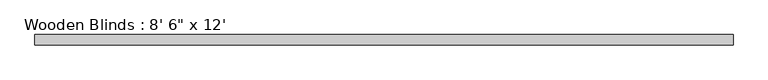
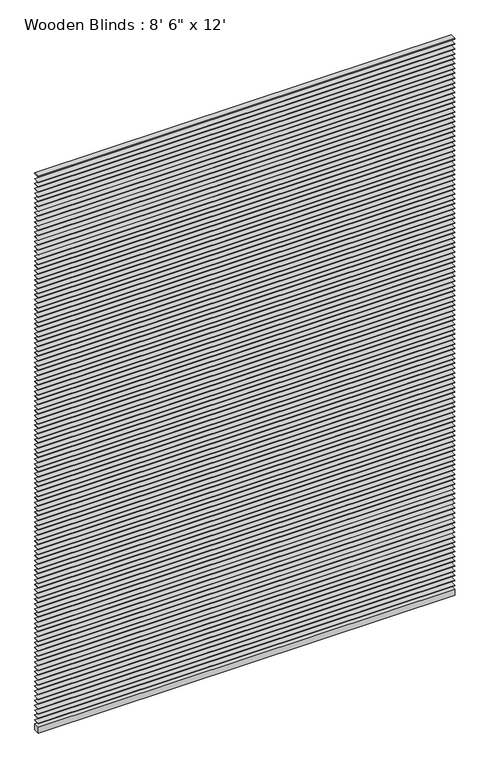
"""IFC4 building model written with IfcOpenShell, lengths in millimetres: furniture geometry."""

from ifc_helpers import new_model, si_unit, frame, origin, origin_with_axes, place, context, project, spatial, polyline, outline, extrude, source, transform, mapped, element, save


def furniture_73d83834(model_context):
    return source(origin(), model_context, "Body", "SweptSolid", [
        extrude(outline(polyline([(2590.8, 38.1), (2590.8, 0.0), (0.0, 0.0), (0.0, 38.1), (2590.8, 38.1)])), frame((0.0, 0.0, 3617.8790576), z_axis=(0.0, 0.0, 1.0), x_axis=(1.0, 0.0, 0.0)), (0.0, 0.0, 1.0), 3.175),
        extrude(outline(polyline([(2590.8, 38.1), (2590.8, 0.0), (0.0, 0.0), (0.0, 38.1), (2590.8, 38.1)])), frame((0.0, 0.0, 3586.1290576), z_axis=(0.0, 0.0, 1.0), x_axis=(1.0, 0.0, 0.0)), (0.0, 0.0, 1.0), 3.175),
        extrude(outline(polyline([(2590.8, 38.1), (2590.8, 0.0), (0.0, 0.0), (0.0, 38.1), (2590.8, 38.1)])), frame((0.0, 0.0, 3554.3790576), z_axis=(0.0, 0.0, 1.0), x_axis=(1.0, 0.0, 0.0)), (0.0, 0.0, 1.0), 3.175),
        extrude(outline(polyline([(2590.8, 38.1), (2590.8, 0.0), (0.0, 0.0), (0.0, 38.1), (2590.8, 38.1)])), frame((0.0, 0.0, 3522.6290576), z_axis=(0.0, 0.0, 1.0), x_axis=(1.0, 0.0, 0.0)), (0.0, 0.0, 1.0), 3.175),
        extrude(outline(polyline([(2590.8, 38.1), (2590.8, 0.0), (0.0, 0.0), (0.0, 38.1), (2590.8, 38.1)])), frame((0.0, 0.0, 3490.8790576), z_axis=(0.0, 0.0, 1.0), x_axis=(1.0, 0.0, 0.0)), (0.0, 0.0, 1.0), 3.175),
        extrude(outline(polyline([(2590.8, 38.1), (2590.8, 0.0), (0.0, 0.0), (0.0, 38.1), (2590.8, 38.1)])), frame((0.0, 0.0, 3459.1290576), z_axis=(0.0, 0.0, 1.0), x_axis=(1.0, 0.0, 0.0)), (0.0, 0.0, 1.0), 3.175),
        extrude(outline(polyline([(2590.8, 38.1), (2590.8, 0.0), (0.0, 0.0), (0.0, 38.1), (2590.8, 38.1)])), frame((0.0, 0.0, 3427.3790576), z_axis=(0.0, 0.0, 1.0), x_axis=(1.0, 0.0, 0.0)), (0.0, 0.0, 1.0), 3.175),
        extrude(outline(polyline([(2590.8, 38.1), (2590.8, 0.0), (0.0, 0.0), (0.0, 38.1), (2590.8, 38.1)])), frame((0.0, 0.0, 3395.6290576), z_axis=(0.0, 0.0, 1.0), x_axis=(1.0, 0.0, 0.0)), (0.0, 0.0, 1.0), 3.175),
        extrude(outline(polyline([(2590.8, 38.1), (2590.8, 0.0), (0.0, 0.0), (0.0, 38.1), (2590.8, 38.1)])), frame((0.0, 0.0, 3363.8790576), z_axis=(0.0, 0.0, 1.0), x_axis=(1.0, 0.0, 0.0)), (0.0, 0.0, 1.0), 3.175),
        extrude(outline(polyline([(2590.8, 38.1), (2590.8, 0.0), (0.0, 0.0), (0.0, 38.1), (2590.8, 38.1)])), frame((0.0, 0.0, 3332.1290576), z_axis=(0.0, 0.0, 1.0), x_axis=(1.0, 0.0, 0.0)), (0.0, 0.0, 1.0), 3.175),
        extrude(outline(polyline([(2590.8, 38.1), (2590.8, 0.0), (0.0, 0.0), (0.0, 38.1), (2590.8, 38.1)])), frame((0.0, 0.0, 3300.3790576), z_axis=(0.0, 0.0, 1.0), x_axis=(1.0, 0.0, 0.0)), (0.0, 0.0, 1.0), 3.175),
        extrude(outline(polyline([(2590.8, 38.1), (2590.8, 0.0), (0.0, 0.0), (0.0, 38.1), (2590.8, 38.1)])), frame((0.0, 0.0, 3268.6290576), z_axis=(0.0, 0.0, 1.0), x_axis=(1.0, 0.0, 0.0)), (0.0, 0.0, 1.0), 3.175),
        extrude(outline(polyline([(2590.8, 38.1), (2590.8, 0.0), (0.0, 0.0), (0.0, 38.1), (2590.8, 38.1)])), frame((0.0, 0.0, 3236.8790576), z_axis=(0.0, 0.0, 1.0), x_axis=(1.0, 0.0, 0.0)), (0.0, 0.0, 1.0), 3.175),
        extrude(outline(polyline([(2590.8, 38.1), (2590.8, 0.0), (0.0, 0.0), (0.0, 38.1), (2590.8, 38.1)])), frame((0.0, 0.0, 3205.1290576), z_axis=(0.0, 0.0, 1.0), x_axis=(1.0, 0.0, 0.0)), (0.0, 0.0, 1.0), 3.175),
        extrude(outline(polyline([(2590.8, 38.1), (2590.8, 0.0), (0.0, 0.0), (0.0, 38.1), (2590.8, 38.1)])), frame((0.0, 0.0, 3173.3790576), z_axis=(0.0, 0.0, 1.0), x_axis=(1.0, 0.0, 0.0)), (0.0, 0.0, 1.0), 3.175),
        extrude(outline(polyline([(2590.8, 38.1), (2590.8, 0.0), (0.0, 0.0), (0.0, 38.1), (2590.8, 38.1)])), frame((0.0, 0.0, 3141.6290576), z_axis=(0.0, 0.0, 1.0), x_axis=(1.0, 0.0, 0.0)), (0.0, 0.0, 1.0), 3.175),
        extrude(outline(polyline([(2590.8, 38.1), (2590.8, 0.0), (0.0, 0.0), (0.0, 38.1), (2590.8, 38.1)])), frame((0.0, 0.0, 3109.8790576), z_axis=(0.0, 0.0, 1.0), x_axis=(1.0, 0.0, 0.0)), (0.0, 0.0, 1.0), 3.175),
        extrude(outline(polyline([(2590.8, 38.1), (2590.8, 0.0), (0.0, 0.0), (0.0, 38.1), (2590.8, 38.1)])), frame((0.0, 0.0, 3078.1290576), z_axis=(0.0, 0.0, 1.0), x_axis=(1.0, 0.0, 0.0)), (0.0, 0.0, 1.0), 3.175),
        extrude(outline(polyline([(2590.8, 38.1), (2590.8, 0.0), (0.0, 0.0), (0.0, 38.1), (2590.8, 38.1)])), frame((0.0, 0.0, 3046.3790576), z_axis=(0.0, 0.0, 1.0), x_axis=(1.0, 0.0, 0.0)), (0.0, 0.0, 1.0), 3.175),
        extrude(outline(polyline([(2590.8, 38.1), (2590.8, 0.0), (0.0, 0.0), (0.0, 38.1), (2590.8, 38.1)])), frame((0.0, 0.0, 3014.6290576), z_axis=(0.0, 0.0, 1.0), x_axis=(1.0, 0.0, 0.0)), (0.0, 0.0, 1.0), 3.175),
        extrude(outline(polyline([(2590.8, 38.1), (2590.8, 0.0), (0.0, 0.0), (0.0, 38.1), (2590.8, 38.1)])), frame((0.0, 0.0, 2982.8790576), z_axis=(0.0, 0.0, 1.0), x_axis=(1.0, 0.0, 0.0)), (0.0, 0.0, 1.0), 3.175),
        extrude(outline(polyline([(2590.8, 38.1), (2590.8, 0.0), (0.0, 0.0), (0.0, 38.1), (2590.8, 38.1)])), frame((0.0, 0.0, 2951.1290576), z_axis=(0.0, 0.0, 1.0), x_axis=(1.0, 0.0, 0.0)), (0.0, 0.0, 1.0), 3.175),
        extrude(outline(polyline([(2590.8, 38.1), (2590.8, 0.0), (0.0, 0.0), (0.0, 38.1), (2590.8, 38.1)])), frame((0.0, 0.0, 2919.3790576), z_axis=(0.0, 0.0, 1.0), x_axis=(1.0, 0.0, 0.0)), (0.0, 0.0, 1.0), 3.175),
        extrude(outline(polyline([(2590.8, 38.1), (2590.8, 0.0), (0.0, 0.0), (0.0, 38.1), (2590.8, 38.1)])), frame((0.0, 0.0, 2887.6290576), z_axis=(0.0, 0.0, 1.0), x_axis=(1.0, 0.0, 0.0)), (0.0, 0.0, 1.0), 3.175),
        extrude(outline(polyline([(2590.8, 38.1), (2590.8, 0.0), (0.0, 0.0), (0.0, 38.1), (2590.8, 38.1)])), frame((0.0, 0.0, 2855.8790576), z_axis=(0.0, 0.0, 1.0), x_axis=(1.0, 0.0, 0.0)), (0.0, 0.0, 1.0), 3.175),
        extrude(outline(polyline([(2590.8, 38.1), (2590.8, 0.0), (0.0, 0.0), (0.0, 38.1), (2590.8, 38.1)])), frame((0.0, 0.0, 2824.1290576), z_axis=(0.0, 0.0, 1.0), x_axis=(1.0, 0.0, 0.0)), (0.0, 0.0, 1.0), 3.175),
        extrude(outline(polyline([(2590.8, 38.1), (2590.8, 0.0), (0.0, 0.0), (0.0, 38.1), (2590.8, 38.1)])), frame((0.0, 0.0, 2792.3790576), z_axis=(0.0, 0.0, 1.0), x_axis=(1.0, 0.0, 0.0)), (0.0, 0.0, 1.0), 3.175),
        extrude(outline(polyline([(2590.8, 38.1), (2590.8, 0.0), (0.0, 0.0), (0.0, 38.1), (2590.8, 38.1)])), frame((0.0, 0.0, 2760.6290576), z_axis=(0.0, 0.0, 1.0), x_axis=(1.0, 0.0, 0.0)), (0.0, 0.0, 1.0), 3.175),
        extrude(outline(polyline([(2590.8, 38.1), (2590.8, 0.0), (0.0, 0.0), (0.0, 38.1), (2590.8, 38.1)])), frame((0.0, 0.0, 2728.8790576), z_axis=(0.0, 0.0, 1.0), x_axis=(1.0, 0.0, 0.0)), (0.0, 0.0, 1.0), 3.175),
        extrude(outline(polyline([(2590.8, 38.1), (2590.8, 0.0), (0.0, 0.0), (0.0, 38.1), (2590.8, 38.1)])), frame((0.0, 0.0, 2697.1290576), z_axis=(0.0, 0.0, 1.0), x_axis=(1.0, 0.0, 0.0)), (0.0, 0.0, 1.0), 3.175),
        extrude(outline(polyline([(2590.8, 38.1), (2590.8, 0.0), (0.0, 0.0), (0.0, 38.1), (2590.8, 38.1)])), frame((0.0, 0.0, 2665.3790576), z_axis=(0.0, 0.0, 1.0), x_axis=(1.0, 0.0, 0.0)), (0.0, 0.0, 1.0), 3.175),
        extrude(outline(polyline([(2590.8, 38.1), (2590.8, 0.0), (0.0, 0.0), (0.0, 38.1), (2590.8, 38.1)])), frame((0.0, 0.0, 2633.6290576), z_axis=(0.0, 0.0, 1.0), x_axis=(1.0, 0.0, 0.0)), (0.0, 0.0, 1.0), 3.175),
        extrude(outline(polyline([(2590.8, 38.1), (2590.8, 0.0), (0.0, 0.0), (0.0, 38.1), (2590.8, 38.1)])), frame((0.0, 0.0, 2601.8790576), z_axis=(0.0, 0.0, 1.0), x_axis=(1.0, 0.0, 0.0)), (0.0, 0.0, 1.0), 3.175),
        extrude(outline(polyline([(2590.8, 38.1), (2590.8, 0.0), (0.0, 0.0), (0.0, 38.1), (2590.8, 38.1)])), frame((0.0, 0.0, 2570.1290576), z_axis=(0.0, 0.0, 1.0), x_axis=(1.0, 0.0, 0.0)), (0.0, 0.0, 1.0), 3.175),
        extrude(outline(polyline([(2590.8, 38.1), (2590.8, 0.0), (0.0, 0.0), (0.0, 38.1), (2590.8, 38.1)])), frame((0.0, 0.0, 2538.3790576), z_axis=(0.0, 0.0, 1.0), x_axis=(1.0, 0.0, 0.0)), (0.0, 0.0, 1.0), 3.175),
        extrude(outline(polyline([(2590.8, 38.1), (2590.8, 0.0), (0.0, 0.0), (0.0, 38.1), (2590.8, 38.1)])), frame((0.0, 0.0, 2506.6290576), z_axis=(0.0, 0.0, 1.0), x_axis=(1.0, 0.0, 0.0)), (0.0, 0.0, 1.0), 3.175),
        extrude(outline(polyline([(2590.8, 38.1), (2590.8, 0.0), (0.0, 0.0), (0.0, 38.1), (2590.8, 38.1)])), frame((0.0, 0.0, 2474.8790576), z_axis=(0.0, 0.0, 1.0), x_axis=(1.0, 0.0, 0.0)), (0.0, 0.0, 1.0), 3.175),
        extrude(outline(polyline([(2590.8, 38.1), (2590.8, 0.0), (0.0, 0.0), (0.0, 38.1), (2590.8, 38.1)])), frame((0.0, 0.0, 2443.1290576), z_axis=(0.0, 0.0, 1.0), x_axis=(1.0, 0.0, 0.0)), (0.0, 0.0, 1.0), 3.175),
        extrude(outline(polyline([(2590.8, 38.1), (2590.8, 0.0), (0.0, 0.0), (0.0, 38.1), (2590.8, 38.1)])), frame((0.0, 0.0, 2411.3790576), z_axis=(0.0, 0.0, 1.0), x_axis=(1.0, 0.0, 0.0)), (0.0, 0.0, 1.0), 3.175),
        extrude(outline(polyline([(2590.8, 38.1), (2590.8, 0.0), (0.0, 0.0), (0.0, 38.1), (2590.8, 38.1)])), frame((0.0, 0.0, 2379.6290576), z_axis=(0.0, 0.0, 1.0), x_axis=(1.0, 0.0, 0.0)), (0.0, 0.0, 1.0), 3.175),
        extrude(outline(polyline([(2590.8, 38.1), (2590.8, 0.0), (0.0, 0.0), (0.0, 38.1), (2590.8, 38.1)])), frame((0.0, 0.0, 2347.8790576), z_axis=(0.0, 0.0, 1.0), x_axis=(1.0, 0.0, 0.0)), (0.0, 0.0, 1.0), 3.175),
        extrude(outline(polyline([(2590.8, 38.1), (2590.8, 0.0), (0.0, 0.0), (0.0, 38.1), (2590.8, 38.1)])), frame((0.0, 0.0, 2316.1290576), z_axis=(0.0, 0.0, 1.0), x_axis=(1.0, 0.0, 0.0)), (0.0, 0.0, 1.0), 3.175),
        extrude(outline(polyline([(2590.8, 38.1), (2590.8, 0.0), (0.0, 0.0), (0.0, 38.1), (2590.8, 38.1)])), frame((0.0, 0.0, 2284.3790576), z_axis=(0.0, 0.0, 1.0), x_axis=(1.0, 0.0, 0.0)), (0.0, 0.0, 1.0), 3.175),
        extrude(outline(polyline([(2590.8, 38.1), (2590.8, 0.0), (0.0, 0.0), (0.0, 38.1), (2590.8, 38.1)])), frame((0.0, 0.0, 2252.6290576), z_axis=(0.0, 0.0, 1.0), x_axis=(1.0, 0.0, 0.0)), (0.0, 0.0, 1.0), 3.175),
        extrude(outline(polyline([(2590.8, 38.1), (2590.8, 0.0), (0.0, 0.0), (0.0, 38.1), (2590.8, 38.1)])), frame((0.0, 0.0, 2220.8790576), z_axis=(0.0, 0.0, 1.0), x_axis=(1.0, 0.0, 0.0)), (0.0, 0.0, 1.0), 3.175),
        extrude(outline(polyline([(2590.8, 38.1), (2590.8, 0.0), (0.0, 0.0), (0.0, 38.1), (2590.8, 38.1)])), frame((0.0, 0.0, 2189.1290576), z_axis=(0.0, 0.0, 1.0), x_axis=(1.0, 0.0, 0.0)), (0.0, 0.0, 1.0), 3.175),
        extrude(outline(polyline([(2590.8, 38.1), (2590.8, 0.0), (0.0, 0.0), (0.0, 38.1), (2590.8, 38.1)])), frame((0.0, 0.0, 2157.3790576), z_axis=(0.0, 0.0, 1.0), x_axis=(1.0, 0.0, 0.0)), (0.0, 0.0, 1.0), 3.175),
        extrude(outline(polyline([(2590.8, 38.1), (2590.8, 0.0), (0.0, 0.0), (0.0, 38.1), (2590.8, 38.1)])), frame((0.0, 0.0, 2125.6290576), z_axis=(0.0, 0.0, 1.0), x_axis=(1.0, 0.0, 0.0)), (0.0, 0.0, 1.0), 3.175),
        extrude(outline(polyline([(2590.8, 38.1), (2590.8, 0.0), (0.0, 0.0), (0.0, 38.1), (2590.8, 38.1)])), frame((0.0, 0.0, 2093.8790576), z_axis=(0.0, 0.0, 1.0), x_axis=(1.0, 0.0, 0.0)), (0.0, 0.0, 1.0), 3.175),
        extrude(outline(polyline([(2590.8, 38.1), (2590.8, 0.0), (0.0, 0.0), (0.0, 38.1), (2590.8, 38.1)])), frame((0.0, 0.0, 2062.1290576), z_axis=(0.0, 0.0, 1.0), x_axis=(1.0, 0.0, 0.0)), (0.0, 0.0, 1.0), 3.175),
        extrude(outline(polyline([(2590.8, 38.1), (2590.8, 0.0), (0.0, 0.0), (0.0, 38.1), (2590.8, 38.1)])), frame((0.0, 0.0, 2030.3790576), z_axis=(0.0, 0.0, 1.0), x_axis=(1.0, 0.0, 0.0)), (0.0, 0.0, 1.0), 3.175),
        extrude(outline(polyline([(2590.8, 38.1), (2590.8, 0.0), (0.0, 0.0), (0.0, 38.1), (2590.8, 38.1)])), frame((0.0, 0.0, 1998.6290576), z_axis=(0.0, 0.0, 1.0), x_axis=(1.0, 0.0, 0.0)), (0.0, 0.0, 1.0), 3.175),
        extrude(outline(polyline([(2590.8, 38.1), (2590.8, 0.0), (0.0, 0.0), (0.0, 38.1), (2590.8, 38.1)])), frame((0.0, 0.0, 1966.8790576), z_axis=(0.0, 0.0, 1.0), x_axis=(1.0, 0.0, 0.0)), (0.0, 0.0, 1.0), 3.175),
        extrude(outline(polyline([(2590.8, 38.1), (2590.8, 0.0), (0.0, 0.0), (0.0, 38.1), (2590.8, 38.1)])), frame((0.0, 0.0, 1935.1290576), z_axis=(0.0, 0.0, 1.0), x_axis=(1.0, 0.0, 0.0)), (0.0, 0.0, 1.0), 3.175),
        extrude(outline(polyline([(2590.8, 38.1), (2590.8, 0.0), (0.0, 0.0), (0.0, 38.1), (2590.8, 38.1)])), frame((0.0, 0.0, 1903.3790576), z_axis=(0.0, 0.0, 1.0), x_axis=(1.0, 0.0, 0.0)), (0.0, 0.0, 1.0), 3.175),
        extrude(outline(polyline([(2590.8, 38.1), (2590.8, 0.0), (0.0, 0.0), (0.0, 38.1), (2590.8, 38.1)])), frame((0.0, 0.0, 1871.6290576), z_axis=(0.0, 0.0, 1.0), x_axis=(1.0, 0.0, 0.0)), (0.0, 0.0, 1.0), 3.175),
        extrude(outline(polyline([(2590.8, 38.1), (2590.8, 0.0), (0.0, 0.0), (0.0, 38.1), (2590.8, 38.1)])), frame((0.0, 0.0, 1839.8790576), z_axis=(0.0, 0.0, 1.0), x_axis=(1.0, 0.0, 0.0)), (0.0, 0.0, 1.0), 3.175),
        extrude(outline(polyline([(2590.8, 38.1), (2590.8, 0.0), (0.0, 0.0), (0.0, 38.1), (2590.8, 38.1)])), frame((0.0, 0.0, 1808.1290576), z_axis=(0.0, 0.0, 1.0), x_axis=(1.0, 0.0, 0.0)), (0.0, 0.0, 1.0), 3.175),
        extrude(outline(polyline([(2590.8, 38.1), (2590.8, 0.0), (0.0, 0.0), (0.0, 38.1), (2590.8, 38.1)])), frame((0.0, 0.0, 1776.3790576), z_axis=(0.0, 0.0, 1.0), x_axis=(1.0, 0.0, 0.0)), (0.0, 0.0, 1.0), 3.175),
        extrude(outline(polyline([(2590.8, 38.1), (2590.8, 0.0), (0.0, 0.0), (0.0, 38.1), (2590.8, 38.1)])), frame((0.0, 0.0, 1744.6290576), z_axis=(0.0, 0.0, 1.0), x_axis=(1.0, 0.0, 0.0)), (0.0, 0.0, 1.0), 3.175),
        extrude(outline(polyline([(2590.8, 38.1), (2590.8, 0.0), (0.0, 0.0), (0.0, 38.1), (2590.8, 38.1)])), frame((0.0, 0.0, 1712.8790576), z_axis=(0.0, 0.0, 1.0), x_axis=(1.0, 0.0, 0.0)), (0.0, 0.0, 1.0), 3.175),
        extrude(outline(polyline([(2590.8, 38.1), (2590.8, 0.0), (0.0, 0.0), (0.0, 38.1), (2590.8, 38.1)])), frame((0.0, 0.0, 1681.1290576), z_axis=(0.0, 0.0, 1.0), x_axis=(1.0, 0.0, 0.0)), (0.0, 0.0, 1.0), 3.175),
        extrude(outline(polyline([(2590.8, 38.1), (2590.8, 0.0), (0.0, 0.0), (0.0, 38.1), (2590.8, 38.1)])), frame((0.0, 0.0, 1649.3790576), z_axis=(0.0, 0.0, 1.0), x_axis=(1.0, 0.0, 0.0)), (0.0, 0.0, 1.0), 3.175),
        extrude(outline(polyline([(2590.8, 38.1), (2590.8, 0.0), (0.0, 0.0), (0.0, 38.1), (2590.8, 38.1)])), frame((0.0, 0.0, 1617.6290576), z_axis=(0.0, 0.0, 1.0), x_axis=(1.0, 0.0, 0.0)), (0.0, 0.0, 1.0), 3.175),
        extrude(outline(polyline([(2590.8, 38.1), (2590.8, 0.0), (0.0, 0.0), (0.0, 38.1), (2590.8, 38.1)])), frame((0.0, 0.0, 1585.8790576), z_axis=(0.0, 0.0, 1.0), x_axis=(1.0, 0.0, 0.0)), (0.0, 0.0, 1.0), 3.175),
        extrude(outline(polyline([(2590.8, 38.1), (2590.8, 0.0), (0.0, 0.0), (0.0, 38.1), (2590.8, 38.1)])), frame((0.0, 0.0, 1554.1290576), z_axis=(0.0, 0.0, 1.0), x_axis=(1.0, 0.0, 0.0)), (0.0, 0.0, 1.0), 3.175),
        extrude(outline(polyline([(2590.8, 38.1), (2590.8, 0.0), (0.0, 0.0), (0.0, 38.1), (2590.8, 38.1)])), frame((0.0, 0.0, 1522.3790576), z_axis=(0.0, 0.0, 1.0), x_axis=(1.0, 0.0, 0.0)), (0.0, 0.0, 1.0), 3.175),
        extrude(outline(polyline([(2590.8, 38.1), (2590.8, 0.0), (0.0, 0.0), (0.0, 38.1), (2590.8, 38.1)])), frame((0.0, 0.0, 1490.6290576), z_axis=(0.0, 0.0, 1.0), x_axis=(1.0, 0.0, 0.0)), (0.0, 0.0, 1.0), 3.175),
        extrude(outline(polyline([(2590.8, 38.1), (2590.8, 0.0), (0.0, 0.0), (0.0, 38.1), (2590.8, 38.1)])), frame((0.0, 0.0, 1458.8790576), z_axis=(0.0, 0.0, 1.0), x_axis=(1.0, 0.0, 0.0)), (0.0, 0.0, 1.0), 3.175),
        extrude(outline(polyline([(2590.8, 38.1), (2590.8, 0.0), (0.0, 0.0), (0.0, 38.1), (2590.8, 38.1)])), frame((0.0, 0.0, 1427.1290576), z_axis=(0.0, 0.0, 1.0), x_axis=(1.0, 0.0, 0.0)), (0.0, 0.0, 1.0), 3.175),
        extrude(outline(polyline([(2590.8, 38.1), (2590.8, 0.0), (0.0, 0.0), (0.0, 38.1), (2590.8, 38.1)])), frame((0.0, 0.0, 1395.3790576), z_axis=(0.0, 0.0, 1.0), x_axis=(1.0, 0.0, 0.0)), (0.0, 0.0, 1.0), 3.175),
        extrude(outline(polyline([(2590.8, 38.1), (2590.8, 0.0), (0.0, 0.0), (0.0, 38.1), (2590.8, 38.1)])), frame((0.0, 0.0, 1363.6290576), z_axis=(0.0, 0.0, 1.0), x_axis=(1.0, 0.0, 0.0)), (0.0, 0.0, 1.0), 3.175),
        extrude(outline(polyline([(2590.8, 38.1), (2590.8, 0.0), (0.0, 0.0), (0.0, 38.1), (2590.8, 38.1)])), frame((0.0, 0.0, 1331.8790576), z_axis=(0.0, 0.0, 1.0), x_axis=(1.0, 0.0, 0.0)), (0.0, 0.0, 1.0), 3.175),
        extrude(outline(polyline([(2590.8, 38.1), (2590.8, 0.0), (0.0, 0.0), (0.0, 38.1), (2590.8, 38.1)])), frame((0.0, 0.0, 1300.1290576), z_axis=(0.0, 0.0, 1.0), x_axis=(1.0, 0.0, 0.0)), (0.0, 0.0, 1.0), 3.175),
        extrude(outline(polyline([(2590.8, 38.1), (2590.8, 0.0), (0.0, 0.0), (0.0, 38.1), (2590.8, 38.1)])), frame((0.0, 0.0, 1268.3790576), z_axis=(0.0, 0.0, 1.0), x_axis=(1.0, 0.0, 0.0)), (0.0, 0.0, 1.0), 3.175),
        extrude(outline(polyline([(2590.8, 38.1), (2590.8, 0.0), (0.0, 0.0), (0.0, 38.1), (2590.8, 38.1)])), frame((0.0, 0.0, 1236.6290576), z_axis=(0.0, 0.0, 1.0), x_axis=(1.0, 0.0, 0.0)), (0.0, 0.0, 1.0), 3.175),
        extrude(outline(polyline([(2590.8, 38.1), (2590.8, 0.0), (0.0, 0.0), (0.0, 38.1), (2590.8, 38.1)])), frame((0.0, 0.0, 1204.8790576), z_axis=(0.0, 0.0, 1.0), x_axis=(1.0, 0.0, 0.0)), (0.0, 0.0, 1.0), 3.175),
        extrude(outline(polyline([(2590.8, 38.1), (2590.8, 0.0), (0.0, 0.0), (0.0, 38.1), (2590.8, 38.1)])), frame((0.0, 0.0, 1173.1290576), z_axis=(0.0, 0.0, 1.0), x_axis=(1.0, 0.0, 0.0)), (0.0, 0.0, 1.0), 3.175),
        extrude(outline(polyline([(2590.8, 38.1), (2590.8, 0.0), (0.0, 0.0), (0.0, 38.1), (2590.8, 38.1)])), frame((0.0, 0.0, 1141.3790576), z_axis=(0.0, 0.0, 1.0), x_axis=(1.0, 0.0, 0.0)), (0.0, 0.0, 1.0), 3.175),
        extrude(outline(polyline([(2590.8, 38.1), (2590.8, 0.0), (0.0, 0.0), (0.0, 38.1), (2590.8, 38.1)])), frame((0.0, 0.0, 1109.6290576), z_axis=(0.0, 0.0, 1.0), x_axis=(1.0, 0.0, 0.0)), (0.0, 0.0, 1.0), 3.175),
        extrude(outline(polyline([(2590.8, 38.1), (2590.8, 0.0), (0.0, 0.0), (0.0, 38.1), (2590.8, 38.1)])), frame((0.0, 0.0, 1077.8790576), z_axis=(0.0, 0.0, 1.0), x_axis=(1.0, 0.0, 0.0)), (0.0, 0.0, 1.0), 3.175),
        extrude(outline(polyline([(2590.8, 38.1), (2590.8, 0.0), (0.0, 0.0), (0.0, 38.1), (2590.8, 38.1)])), frame((0.0, 0.0, 1046.1290576), z_axis=(0.0, 0.0, 1.0), x_axis=(1.0, 0.0, 0.0)), (0.0, 0.0, 1.0), 3.175),
        extrude(outline(polyline([(2590.8, 38.1), (2590.8, 0.0), (0.0, 0.0), (0.0, 38.1), (2590.8, 38.1)])), frame((0.0, 0.0, 1014.3790576), z_axis=(0.0, 0.0, 1.0), x_axis=(1.0, 0.0, 0.0)), (0.0, 0.0, 1.0), 3.175),
        extrude(outline(polyline([(2590.8, 38.1), (2590.8, 0.0), (0.0, 0.0), (0.0, 38.1), (2590.8, 38.1)])), frame((0.0, 0.0, 982.6290576), z_axis=(0.0, 0.0, 1.0), x_axis=(1.0, 0.0, 0.0)), (0.0, 0.0, 1.0), 3.175),
        extrude(outline(polyline([(2590.8, 38.1), (2590.8, 0.0), (0.0, 0.0), (0.0, 38.1), (2590.8, 38.1)])), frame((0.0, 0.0, 950.8790576), z_axis=(0.0, 0.0, 1.0), x_axis=(1.0, 0.0, 0.0)), (0.0, 0.0, 1.0), 3.175),
        extrude(outline(polyline([(2590.8, 38.1), (2590.8, 0.0), (0.0, 0.0), (0.0, 38.1), (2590.8, 38.1)])), frame((0.0, 0.0, 919.1290576), z_axis=(0.0, 0.0, 1.0), x_axis=(1.0, 0.0, 0.0)), (0.0, 0.0, 1.0), 3.175),
        extrude(outline(polyline([(2590.8, 38.1), (2590.8, 0.0), (0.0, 0.0), (0.0, 38.1), (2590.8, 38.1)])), frame((0.0, 0.0, 887.3790576), z_axis=(0.0, 0.0, 1.0), x_axis=(1.0, 0.0, 0.0)), (0.0, 0.0, 1.0), 3.175),
        extrude(outline(polyline([(2590.8, 38.1), (2590.8, 0.0), (0.0, 0.0), (0.0, 38.1), (2590.8, 38.1)])), frame((0.0, 0.0, 855.6290576), z_axis=(0.0, 0.0, 1.0), x_axis=(1.0, 0.0, 0.0)), (0.0, 0.0, 1.0), 3.175),
        extrude(outline(polyline([(2590.8, 38.1), (2590.8, 0.0), (0.0, 0.0), (0.0, 38.1), (2590.8, 38.1)])), frame((0.0, 0.0, 823.8790576), z_axis=(0.0, 0.0, 1.0), x_axis=(1.0, 0.0, 0.0)), (0.0, 0.0, 1.0), 3.175),
        extrude(outline(polyline([(2590.8, 38.1), (2590.8, 0.0), (0.0, 0.0), (0.0, 38.1), (2590.8, 38.1)])), frame((0.0, 0.0, 792.1290576), z_axis=(0.0, 0.0, 1.0), x_axis=(1.0, 0.0, 0.0)), (0.0, 0.0, 1.0), 3.175),
        extrude(outline(polyline([(2590.8, 38.1), (2590.8, 0.0), (0.0, 0.0), (0.0, 38.1), (2590.8, 38.1)])), frame((0.0, 0.0, 760.3790576), z_axis=(0.0, 0.0, 1.0), x_axis=(1.0, 0.0, 0.0)), (0.0, 0.0, 1.0), 3.175),
        extrude(outline(polyline([(2590.8, 38.1), (2590.8, 0.0), (0.0, 0.0), (0.0, 38.1), (2590.8, 38.1)])), frame((0.0, 0.0, 728.6290576), z_axis=(0.0, 0.0, 1.0), x_axis=(1.0, 0.0, 0.0)), (0.0, 0.0, 1.0), 3.175),
        extrude(outline(polyline([(2590.8, 38.1), (2590.8, 0.0), (0.0, 0.0), (0.0, 38.1), (2590.8, 38.1)])), frame((0.0, 0.0, 696.8790576), z_axis=(0.0, 0.0, 1.0), x_axis=(1.0, 0.0, 0.0)), (0.0, 0.0, 1.0), 3.175),
        extrude(outline(polyline([(2590.8, 38.1), (2590.8, 0.0), (0.0, 0.0), (0.0, 38.1), (2590.8, 38.1)])), frame((0.0, 0.0, 665.1290576), z_axis=(0.0, 0.0, 1.0), x_axis=(1.0, 0.0, 0.0)), (0.0, 0.0, 1.0), 3.175),
        extrude(outline(polyline([(2590.8, 38.1), (2590.8, 0.0), (0.0, 0.0), (0.0, 38.1), (2590.8, 38.1)])), frame((0.0, 0.0, 633.3790576), z_axis=(0.0, 0.0, 1.0), x_axis=(1.0, 0.0, 0.0)), (0.0, 0.0, 1.0), 3.175),
        extrude(outline(polyline([(2590.8, 38.1), (2590.8, 0.0), (0.0, 0.0), (0.0, 38.1), (2590.8, 38.1)])), frame((0.0, 0.0, 601.6290576), z_axis=(0.0, 0.0, 1.0), x_axis=(1.0, 0.0, 0.0)), (0.0, 0.0, 1.0), 3.175),
        extrude(outline(polyline([(2590.8, 38.1), (2590.8, 0.0), (0.0, 0.0), (0.0, 38.1), (2590.8, 38.1)])), frame((0.0, 0.0, 569.8790576), z_axis=(0.0, 0.0, 1.0), x_axis=(1.0, 0.0, 0.0)), (0.0, 0.0, 1.0), 3.175),
        extrude(outline(polyline([(2590.8, 38.1), (2590.8, 0.0), (0.0, 0.0), (0.0, 38.1), (2590.8, 38.1)])), frame((0.0, 0.0, 538.1290576), z_axis=(0.0, 0.0, 1.0), x_axis=(1.0, 0.0, 0.0)), (0.0, 0.0, 1.0), 3.175),
        extrude(outline(polyline([(2590.8, 38.1), (2590.8, 0.0), (0.0, 0.0), (0.0, 38.1), (2590.8, 38.1)])), frame((0.0, 0.0, 506.3790576), z_axis=(0.0, 0.0, 1.0), x_axis=(1.0, 0.0, 0.0)), (0.0, 0.0, 1.0), 3.175),
        extrude(outline(polyline([(2590.8, 38.1), (2590.8, 0.0), (0.0, 0.0), (0.0, 38.1), (2590.8, 38.1)])), frame((0.0, 0.0, 474.6290576), z_axis=(0.0, 0.0, 1.0), x_axis=(1.0, 0.0, 0.0)), (0.0, 0.0, 1.0), 3.175),
        extrude(outline(polyline([(2590.8, 38.1), (2590.8, 0.0), (0.0, 0.0), (0.0, 38.1), (2590.8, 38.1)])), frame((0.0, 0.0, 442.8790576), z_axis=(0.0, 0.0, 1.0), x_axis=(1.0, 0.0, 0.0)), (0.0, 0.0, 1.0), 3.175),
        extrude(outline(polyline([(2590.8, 38.1), (2590.8, 0.0), (0.0, 0.0), (0.0, 38.1), (2590.8, 38.1)])), frame((0.0, 0.0, 411.1290576), z_axis=(0.0, 0.0, 1.0), x_axis=(1.0, 0.0, 0.0)), (0.0, 0.0, 1.0), 3.175),
        extrude(outline(polyline([(2590.8, 38.1), (2590.8, 0.0), (0.0, 0.0), (0.0, 38.1), (2590.8, 38.1)])), frame((0.0, 0.0, 379.3790576), z_axis=(0.0, 0.0, 1.0), x_axis=(1.0, 0.0, 0.0)), (0.0, 0.0, 1.0), 3.175),
        extrude(outline(polyline([(2590.8, 38.1), (2590.8, 0.0), (0.0, 0.0), (0.0, 38.1), (2590.8, 38.1)])), frame((0.0, 0.0, 347.6290576), z_axis=(0.0, 0.0, 1.0), x_axis=(1.0, 0.0, 0.0)), (0.0, 0.0, 1.0), 3.175),
        extrude(outline(polyline([(2590.8, 38.1), (2590.8, 0.0), (0.0, 0.0), (0.0, 38.1), (2590.8, 38.1)])), frame((0.0, 0.0, 315.8790576), z_axis=(0.0, 0.0, 1.0), x_axis=(1.0, 0.0, 0.0)), (0.0, 0.0, 1.0), 3.175),
        extrude(outline(polyline([(2590.8, 38.1), (2590.8, 0.0), (0.0, 0.0), (0.0, 38.1), (2590.8, 38.1)])), frame((0.0, 0.0, 284.1290576), z_axis=(0.0, 0.0, 1.0), x_axis=(1.0, 0.0, 0.0)), (0.0, 0.0, 1.0), 3.175),
        extrude(outline(polyline([(2590.8, 38.1), (2590.8, 0.0), (0.0, 0.0), (0.0, 38.1), (2590.8, 38.1)])), frame((0.0, 0.0, 252.3790576), z_axis=(0.0, 0.0, 1.0), x_axis=(1.0, 0.0, 0.0)), (0.0, 0.0, 1.0), 3.175),
        extrude(outline(polyline([(2590.8, 38.1), (2590.8, 0.0), (0.0, 0.0), (0.0, 38.1), (2590.8, 38.1)])), frame((0.0, 0.0, 220.6290576), z_axis=(0.0, 0.0, 1.0), x_axis=(1.0, 0.0, 0.0)), (0.0, 0.0, 1.0), 3.175),
        extrude(outline(polyline([(2590.8, 38.1), (2590.8, 0.0), (0.0, 0.0), (0.0, 38.1), (2590.8, 38.1)])), frame((0.0, 0.0, 188.8790576), z_axis=(0.0, 0.0, 1.0), x_axis=(1.0, 0.0, 0.0)), (0.0, 0.0, 1.0), 3.175),
        extrude(outline(polyline([(2590.8, 38.1), (2590.8, 0.0), (0.0, 0.0), (0.0, 38.1), (2590.8, 38.1)])), frame((0.0, 0.0, 157.1290576), z_axis=(0.0, 0.0, 1.0), x_axis=(1.0, 0.0, 0.0)), (0.0, 0.0, 1.0), 3.175),
        extrude(outline(polyline([(2590.8, 38.1), (2590.8, 0.0), (0.0, 0.0), (0.0, 38.1), (2590.8, 38.1)])), frame((0.0, 0.0, 125.3790576), z_axis=(0.0, 0.0, 1.0), x_axis=(1.0, 0.0, 0.0)), (0.0, 0.0, 1.0), 3.175),
        extrude(outline(polyline([(2590.8, 38.1), (2590.8, 0.0), (0.0, 0.0), (0.0, 38.1), (2590.8, 38.1)])), frame((0.0, 0.0, 93.6290576), z_axis=(0.0, 0.0, 1.0), x_axis=(1.0, 0.0, 0.0)), (0.0, 0.0, 1.0), 3.175),
        extrude(outline(polyline([(2590.8, 38.1), (2590.8, 0.0), (0.0, 0.0), (0.0, 38.1), (2590.8, 38.1)])), frame((0.0, 0.0, 61.8790576), z_axis=(0.0, 0.0, 1.0), x_axis=(1.0, 0.0, 0.0)), (0.0, 0.0, 1.0), 3.175),
        extrude(outline(polyline([(2590.8, 38.1), (2590.8, 0.0), (0.0, 0.0), (0.0, 38.1), (2590.8, 38.1)])), frame((0.0, 0.0, 3651.25), z_axis=(0.0, 0.0, 1.0), x_axis=(1.0, 0.0, 0.0)), (0.0, 0.0, 1.0), 6.35),
        extrude(outline(polyline([(2590.8, 38.1), (2590.8, 0.0), (0.0, 0.0), (0.0, 38.1), (2590.8, 38.1)])), origin_with_axes(), (0.0, 0.0, 1.0), 38.1),
    ])


if __name__ == "__main__":
    model = new_model("IFC4")
    model_context = context("Model", 3, world=origin())
    ifc_project = project(units=[si_unit("LENGTHUNIT", "METRE", prefix="MILLI")], contexts=[model_context])
    site = spatial("IfcSite", under=ifc_project)
    building = spatial("IfcBuilding", under=site)
    placement = place(None, origin())
    furniture_shape = furniture_73d83834(model_context)
    element("IfcFurniture", 1, ObjectType="Wooden Blinds : 8' 6\" x 12'", at=placement, inside=building, context=model_context, shape_type="MappedRepresentation", body=[
        mapped(furniture_shape, transform((0.0, 0.0, 0.0), x_axis=(1.0, 0.0, 0.0), y_axis=(0.0, 1.0, 0.0), z_axis=(0.0, 0.0, 1.0))),
    ])
    save(model, "model.ifc")
